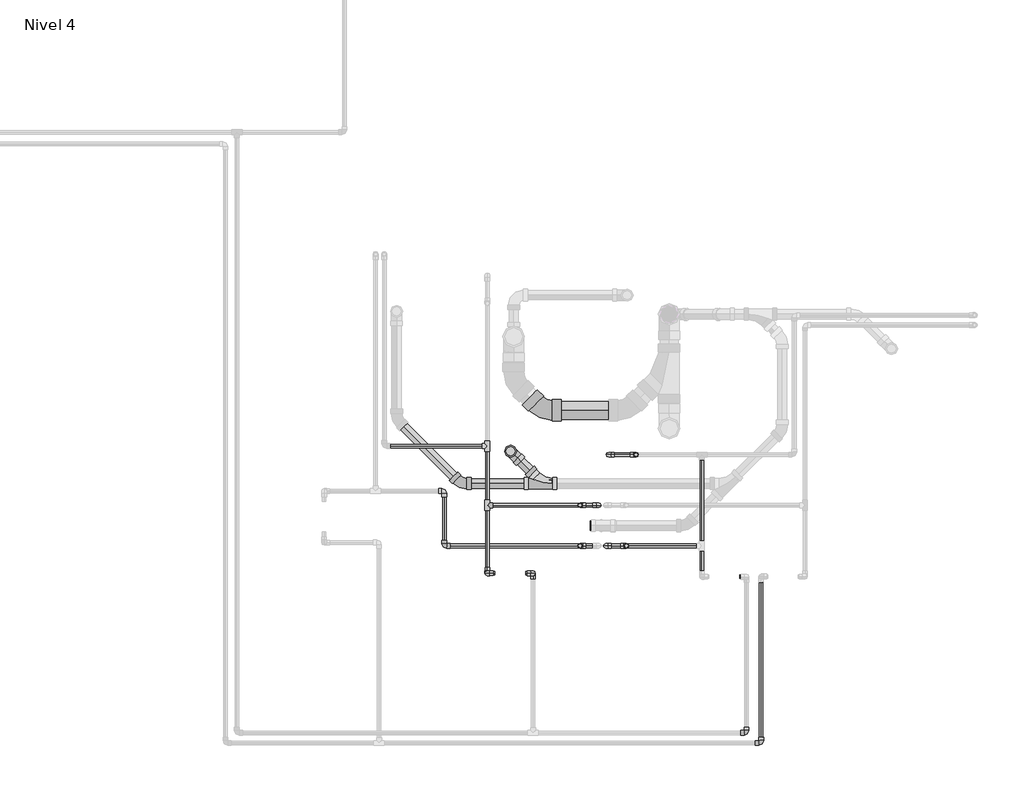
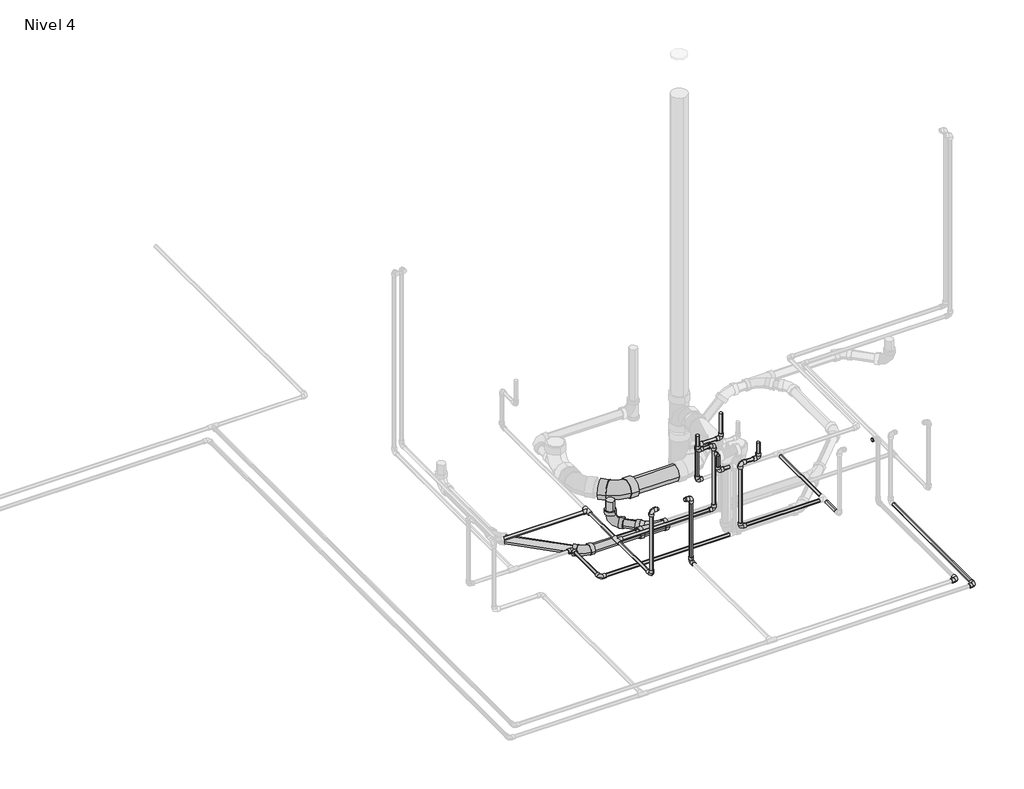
# One storey, part 2 of 9: 32 pipe segments, 24 pipe fittings.
"""IFC4 building model written with IfcOpenShell, lengths in millimetres."""

from ifc_helpers import new_model, si_unit, point, frame, frame_2d, origin, place, context, project, spatial, circle_curve, trimmed, segment, composite_curve, outline, extrude, transform, mapped, element, save
from components import pipe_fitting_ab418b84, pipe_fitting_0163322b, m_codo_pvc_serie_40_9ad74631, m_codo_pvc_serie_40_ba05d404, m_codo_pvc_serie_40_dwv1_5c0ec739, m_codo_pvc_serie_40_dwv1_9a7ca077, m_codo_pvc_serie_40_dwv1_6f1a2495

model = new_model("IFC4")

# Units and contexts
model_context = context("Model", 3, world=origin())
ifc_project = project(units=[si_unit("LENGTHUNIT", "METRE", prefix="MILLI")], contexts=[model_context])

# Site, building, storey
site = spatial("IfcSite", under=ifc_project)
building = spatial("IfcBuilding", under=site)
storey = spatial("IfcBuildingStorey", under=building, Name="Nivel 4", Elevation=8100.0)

# Pipe fittings
placement = place(None, origin())
pipe_fitting_shape = pipe_fitting_ab418b84(model_context)
element("IfcPipeFitting", 1, ObjectType="M_Te - PVC - Serie 40 : Estándar", at=placement, inside=storey, context=model_context, shape_type="MappedRepresentation", body=[
    mapped(pipe_fitting_shape, transform((6373.4849581, 5443.3784167, 8050.0), x_axis=(0.0, 1.0, 0.0), y_axis=(-1.0, 0.0, 0.0), z_axis=(0.0, 0.0, 1.0))),
])
element("IfcPipeFitting", 2, ObjectType="M_Te - PVC - Serie 40 : Estándar", at=placement, inside=storey, context=model_context, shape_type="MappedRepresentation", body=[
    mapped(pipe_fitting_shape, transform((6373.4849581, 5788.5620607, 8050.0), x_axis=(0.0, 1.0, 0.0), y_axis=(1.0, 0.0, 0.0), z_axis=(0.0, 0.0, -1.0))),
])
pipe_fitting_2_shape = pipe_fitting_0163322b(model_context)
element("IfcPipeFitting", 3, ObjectType="M_Sanitario con te de reducción - PVC - Serie 40 - DWV : Estándar", at=placement, inside=storey, context=model_context, shape_type="MappedRepresentation", body=[
    mapped(pipe_fitting_2_shape, transform((6697.357966, 5569.8260974, 7950.0), x_axis=(-1.0, 0.0, 0.0), y_axis=(0.0, -1.0, 0.0), z_axis=(0.0, 0.0, 1.0))),
])
m_codo_pvc_serie_40_shape = m_codo_pvc_serie_40_9ad74631(model_context)
element("IfcPipeFitting", 4, ObjectType="M_Codo - PVC - Serie 40 : Estándar", at=placement, inside=storey, context=model_context, shape_type="MappedRepresentation", body=[
    mapped(m_codo_pvc_serie_40_shape, transform((6913.1208859, 5443.3784167, 8500.0), x_axis=(0.0, 0.0, -1.0), y_axis=(1.0, 0.0, 0.0), z_axis=(0.0, -1.0, 0.0))),
])
element("IfcPipeFitting", 5, ObjectType="M_Codo - PVC - Serie 40 : Estándar", at=placement, inside=storey, context=model_context, shape_type="MappedRepresentation", body=[
    mapped(m_codo_pvc_serie_40_shape, transform((7022.0365713, 5443.3784167, 8500.0), x_axis=(1.0, 0.0, 0.0), y_axis=(0.0, 0.0, -1.0), z_axis=(0.0, 1.0, 0.0))),
])
element("IfcPipeFitting", 6, ObjectType="M_Codo - PVC - Serie 40 : Estándar", at=placement, inside=storey, context=model_context, shape_type="MappedRepresentation", body=[
    mapped(m_codo_pvc_serie_40_shape, transform((6640.0882468, 5047.0181394, 8050.0), x_axis=(0.0, 1.0, 0.0), y_axis=(0.0, 0.0, 1.0), z_axis=(1.0, 0.0, 0.0))),
])
element("IfcPipeFitting", 7, ObjectType="M_Codo - PVC - Serie 40 : Estándar", at=placement, inside=storey, context=model_context, shape_type="MappedRepresentation", body=[
    mapped(m_codo_pvc_serie_40_shape, transform((6640.0882468, 5047.0181394, 8500.0), x_axis=(0.0, 0.0, 1.0), y_axis=(-1.0, 0.0, 0.0), z_axis=(0.0, -1.0, 0.0))),
])
element("IfcPipeFitting", 8, ObjectType="M_Codo - PVC - Serie 40 : Estándar", at=placement, inside=storey, context=model_context, shape_type="MappedRepresentation", body=[
    mapped(m_codo_pvc_serie_40_shape, transform((6373.4849581, 5047.0181394, 8500.0), x_axis=(-1.0, 0.0, 0.0), y_axis=(0.0, 0.0, -1.0), z_axis=(0.0, -1.0, 0.0))),
])
element("IfcPipeFitting", 9, ObjectType="M_Codo - PVC - Serie 40 : Estándar", at=placement, inside=storey, context=model_context, shape_type="MappedRepresentation", body=[
    mapped(m_codo_pvc_serie_40_shape, transform((6373.4849581, 5047.0181394, 8050.0), x_axis=(0.0, 0.0, -1.0), y_axis=(0.0, 1.0, 0.0), z_axis=(1.0, 0.0, 0.0))),
])
element("IfcPipeFitting", 10, ObjectType="M_Codo - PVC - Serie 40 : Estándar", at=placement, inside=storey, context=model_context, shape_type="MappedRepresentation", body=[
    mapped(m_codo_pvc_serie_40_shape, transform((7022.0365713, 5443.3784167, 8050.0), x_axis=(0.0, 0.0, -1.0), y_axis=(-1.0, 0.0, 0.0), z_axis=(0.0, 1.0, 0.0))),
])
element("IfcPipeFitting", 11, ObjectType="M_Codo - PVC - Serie 40 : Estándar", at=placement, inside=storey, context=model_context, shape_type="MappedRepresentation", body=[
    mapped(m_codo_pvc_serie_40_shape, transform((7239.3408631, 5738.1215351, 8300.0), x_axis=(0.0, 0.0, -1.0), y_axis=(-1.0, 0.0, 0.0), z_axis=(0.0, 1.0, 0.0))),
])
element("IfcPipeFitting", 12, ObjectType="M_Codo - PVC - Serie 40 : Estándar", at=placement, inside=storey, context=model_context, shape_type="MappedRepresentation", body=[
    mapped(m_codo_pvc_serie_40_shape, transform((7079.3408631, 5738.1215351, 8300.0), x_axis=(-1.0, 0.0, 0.0), y_axis=(0.0, 0.0, -1.0), z_axis=(0.0, -1.0, 0.0))),
])
element("IfcPipeFitting", 13, ObjectType="M_Codo - PVC - Serie 40 : Estándar", at=placement, inside=storey, context=model_context, shape_type="MappedRepresentation", body=[
    mapped(m_codo_pvc_serie_40_shape, transform((7079.3408631, 5738.1215351, 8050.0), x_axis=(0.0, 0.0, -1.0), y_axis=(1.0, 0.0, 0.0), z_axis=(0.0, -1.0, 0.0))),
])
element("IfcPipeFitting", 14, ObjectType="M_Codo - PVC - Serie 40 : Estándar", at=placement, inside=storey, context=model_context, shape_type="MappedRepresentation", body=[
    mapped(m_codo_pvc_serie_40_shape, transform((7182.9224126, 5206.6215833, 8500.0), x_axis=(0.0, 0.0, -1.0), y_axis=(-1.0, 0.0, 0.0), z_axis=(0.0, 1.0, 0.0))),
])
element("IfcPipeFitting", 15, ObjectType="M_Codo - PVC - Serie 40 : Estándar", at=placement, inside=storey, context=model_context, shape_type="MappedRepresentation", body=[
    mapped(m_codo_pvc_serie_40_shape, transform((7062.9224126, 5206.6215833, 8500.0), x_axis=(-1.0, 0.0, 0.0), y_axis=(0.0, 0.0, -1.0), z_axis=(0.0, -1.0, 0.0))),
])
element("IfcPipeFitting", 16, ObjectType="M_Codo - PVC - Serie 40 : Estándar", at=placement, inside=storey, context=model_context, shape_type="MappedRepresentation", body=[
    mapped(m_codo_pvc_serie_40_shape, transform((7062.9224126, 5206.6215833, 8050.0), x_axis=(0.0, 0.0, -1.0), y_axis=(1.0, 0.0, 0.0), z_axis=(0.0, -1.0, 0.0))),
])
element("IfcPipeFitting", 17, ObjectType="M_Codo - PVC - Serie 40 : Estándar", at=placement, inside=storey, context=model_context, shape_type="MappedRepresentation", body=[
    mapped(m_codo_pvc_serie_40_shape, transform((7882.9224126, 4117.0181394, 8050.0), x_axis=(1.0, 0.0, 0.0), y_axis=(0.0, 1.0, 0.0), z_axis=(0.0, 0.0, 1.0))),
])
element("IfcPipeFitting", 18, ObjectType="M_Codo - PVC - Serie 40 : Estándar", at=placement, inside=storey, context=model_context, shape_type="MappedRepresentation", body=[
    mapped(m_codo_pvc_serie_40_shape, transform((7968.2736664, 4058.5261191, 8020.0), x_axis=(1.0, 0.0, 0.0), y_axis=(0.0, 1.0, 0.0), z_axis=(0.0, 0.0, 1.0))),
])
element("IfcPipeFitting", 19, ObjectType="M_Codo - PVC - Serie 40 : Estándar", at=placement, inside=storey, context=model_context, shape_type="MappedRepresentation", body=[
    mapped(m_codo_pvc_serie_40_shape, transform((6123.2442783, 5526.6215833, 8020.0), x_axis=(0.0, 1.0, 0.0), y_axis=(-1.0, 0.0, 0.0), z_axis=(0.0, 0.0, 1.0))),
])
element("IfcPipeFitting", 20, ObjectType="M_Codo - PVC - Serie 40 : Estándar", at=placement, inside=storey, context=model_context, shape_type="MappedRepresentation", body=[
    mapped(m_codo_pvc_serie_40_shape, transform((6123.2442783, 5206.6215833, 8020.0), x_axis=(0.0, -1.0, 0.0), y_axis=(1.0, 0.0, 0.0), z_axis=(0.0, 0.0, 1.0))),
])
m_codo_pvc_serie_40_2_shape = m_codo_pvc_serie_40_ba05d404(model_context)
element("IfcPipeFitting", 21, ObjectType="M_Codo - PVC - Serie 40 : Estándar", at=placement, inside=storey, context=model_context, shape_type="MappedRepresentation", body=[
    mapped(m_codo_pvc_serie_40_2_shape, transform((6913.1208859, 5206.6215833, 8500.0), x_axis=(0.0, 0.0, -1.0), y_axis=(-1.0, 0.0, 0.0), z_axis=(0.0, 1.0, 0.0))),
])
m_codo_pvc_serie_40_dwv1_shape = m_codo_pvc_serie_40_dwv1_5c0ec739(model_context)
element("IfcPipeFitting", 22, ObjectType="M_Codo - PVC - Serie 40 - DWV1 : Estándar 2", at=placement, inside=storey, context=model_context, shape_type="MappedRepresentation", body=[
    mapped(m_codo_pvc_serie_40_dwv1_shape, transform((6509.082159, 5758.1019044, 7950.0), x_axis=(0.0, 0.0, -1.0), y_axis=(0.7071067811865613, -0.7071067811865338, 0.0), z_axis=(-0.7071067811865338, -0.7071067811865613, 0.0))),
])
m_codo_pvc_serie_40_dwv1_2_shape = m_codo_pvc_serie_40_dwv1_9a7ca077(model_context)
element("IfcPipeFitting", 23, ObjectType="M_Codo - PVC - Serie 40 - DWV1 : Estándar 2", at=placement, inside=storey, context=model_context, shape_type="MappedRepresentation", body=[
    mapped(m_codo_pvc_serie_40_dwv1_2_shape, transform((6696.5258369, 5996.1455314, 7950.0), x_axis=(0.7071067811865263, -0.7071067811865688, 0.0), y_axis=(0.7071067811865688, 0.7071067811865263, 0.0), z_axis=(0.0, 0.0, 1.0))),
])
m_codo_pvc_serie_40_dwv1_3_shape = m_codo_pvc_serie_40_dwv1_6f1a2495(model_context)
element("IfcPipeFitting", 24, ObjectType="M_Codo - PVC - Serie 40 - DWV1 : Estándar 2", at=placement, inside=storey, context=model_context, shape_type="MappedRepresentation", body=[
    mapped(m_codo_pvc_serie_40_dwv1_3_shape, transform((6219.5377594, 5569.8260974, 7950.0), x_axis=(0.7071067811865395, -0.7071067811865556, 0.0), y_axis=(0.7071067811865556, 0.7071067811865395, 0.0), z_axis=(0.0, 0.0, 1.0))),
])

# Pipe segments
element("IfcPipeSegment", 25, ObjectType="Tuberia PVC Agua Fria", at=placement, inside=storey, context=model_context, shape_type="SweptSolid", body=[
    extrude(outline(composite_curve([segment(trimmed(circle_curve(frame_2d((5443.3784167, 8050.0)), 10.31875), [point((5453.6971667, 8050.0))], [point((5443.3784167, 8039.68125))], False, "CARTESIAN"), True, "CONTINUOUS"), segment(trimmed(circle_curve(frame_2d((5443.3784167, 8050.0)), 10.31875), [point((5443.3784167, 8039.68125))], [point((5433.0596667, 8050.0))], False, "CARTESIAN"), True, "CONTINUOUS"), segment(trimmed(circle_curve(frame_2d((5443.3784167, 8050.0)), 10.31875), [point((5433.0596667, 8050.0))], [point((5443.3784167, 8060.31875))], False, "CARTESIAN"), True, "CONTINUOUS"), segment(trimmed(circle_curve(frame_2d((5443.3784167, 8050.0)), 10.31875), [point((5443.3784167, 8060.31875))], [point((5453.6971667, 8050.0))], False, "CARTESIAN"), True, "CONTINUOUS")], self_intersect=False)), frame((6403.9451144, 0.0, 0.0), z_axis=(1.0, 0.0, 0.0), x_axis=(0.0, 1.0, 0.0)), (0.0, 0.0, 1.0), 584.6904569),
])
element("IfcPipeSegment", 26, ObjectType="Tuberia PVC Agua Fria", at=placement, inside=storey, context=model_context, shape_type="SweptSolid", body=[
    extrude(outline(composite_curve([segment(trimmed(circle_curve(frame_2d((5443.3784167, 8500.0)), 10.31875), [point((5433.0596667, 8500.0))], [point((5443.3784167, 8510.31875))], False, "CARTESIAN"), True, "CONTINUOUS"), segment(trimmed(circle_curve(frame_2d((5443.3784167, 8500.0)), 10.31875), [point((5443.3784167, 8510.31875))], [point((5453.6971667, 8500.0))], False, "CARTESIAN"), True, "CONTINUOUS"), segment(trimmed(circle_curve(frame_2d((5443.3784167, 8500.0)), 10.31875), [point((5453.6971667, 8500.0))], [point((5443.3784167, 8489.68125))], False, "CARTESIAN"), True, "CONTINUOUS"), segment(trimmed(circle_curve(frame_2d((5443.3784167, 8500.0)), 10.31875), [point((5443.3784167, 8489.68125))], [point((5433.0596667, 8500.0))], False, "CARTESIAN"), True, "CONTINUOUS")], self_intersect=False)), frame((6946.5218859, 0.0, 0.0), z_axis=(1.0, 0.0, 0.0), x_axis=(0.0, 1.0, 0.0)), (0.0, 0.0, 1.0), 42.1136854),
])
element("IfcPipeSegment", 27, ObjectType="Tuberia PVC Agua Fria", at=placement, inside=storey, context=model_context, shape_type="SweptSolid", body=[
    extrude(outline(composite_curve([segment(trimmed(circle_curve(frame_2d((6913.1208859, 5443.3784167)), 10.31875), [point((6923.4396359, 5443.3784167))], [point((6913.1208859, 5433.0596667))], False, "CARTESIAN"), True, "CONTINUOUS"), segment(trimmed(circle_curve(frame_2d((6913.1208859, 5443.3784167)), 10.31875), [point((6913.1208859, 5433.0596667))], [point((6902.8021359, 5443.3784167))], False, "CARTESIAN"), True, "CONTINUOUS"), segment(trimmed(circle_curve(frame_2d((6913.1208859, 5443.3784167)), 10.31875), [point((6902.8021359, 5443.3784167))], [point((6913.1208859, 5453.6971667))], False, "CARTESIAN"), True, "CONTINUOUS"), segment(trimmed(circle_curve(frame_2d((6913.1208859, 5443.3784167)), 10.31875), [point((6913.1208859, 5453.6971667))], [point((6923.4396359, 5443.3784167))], False, "CARTESIAN"), True, "CONTINUOUS")], self_intersect=False)), frame((0.0, 0.0, 8533.401), z_axis=(0.0, 0.0, 1.0), x_axis=(1.0, 0.0, 0.0)), (0.0, 0.0, 1.0), 74.0983614),
])
element("IfcPipeSegment", 28, ObjectType="Tuberia PVC Agua Fria", at=placement, inside=storey, context=model_context, shape_type="SweptSolid", body=[
    extrude(outline(composite_curve([segment(trimmed(circle_curve(frame_2d((7022.0365713, 5443.3784167)), 10.31875), [point((7032.3553213, 5443.3784167))], [point((7022.0365713, 5433.0596667))], False, "CARTESIAN"), True, "CONTINUOUS"), segment(trimmed(circle_curve(frame_2d((7022.0365713, 5443.3784167)), 10.31875), [point((7022.0365713, 5433.0596667))], [point((7011.7178213, 5443.3784167))], False, "CARTESIAN"), True, "CONTINUOUS"), segment(trimmed(circle_curve(frame_2d((7022.0365713, 5443.3784167)), 10.31875), [point((7011.7178213, 5443.3784167))], [point((7022.0365713, 5453.6971667))], False, "CARTESIAN"), True, "CONTINUOUS"), segment(trimmed(circle_curve(frame_2d((7022.0365713, 5443.3784167)), 10.31875), [point((7022.0365713, 5453.6971667))], [point((7032.3553213, 5443.3784167))], False, "CARTESIAN"), True, "CONTINUOUS")], self_intersect=False)), frame((0.0, 0.0, 8083.401), z_axis=(0.0, 0.0, 1.0), x_axis=(1.0, 0.0, 0.0)), (0.0, 0.0, 1.0), 383.198),
])
element("IfcPipeSegment", 29, ObjectType="Tuberia PVC Agua Fria", at=placement, inside=storey, context=model_context, shape_type="SweptSolid", body=[
    extrude(outline(composite_curve([segment(trimmed(circle_curve(frame_2d((5047.0181394, 8500.0)), 10.31875), [point((5057.3368894, 8500.0))], [point((5047.0181394, 8489.68125))], False, "CARTESIAN"), True, "CONTINUOUS"), segment(trimmed(circle_curve(frame_2d((5047.0181394, 8500.0)), 10.31875), [point((5047.0181394, 8489.68125))], [point((5036.6993894, 8500.0))], False, "CARTESIAN"), True, "CONTINUOUS"), segment(trimmed(circle_curve(frame_2d((5047.0181394, 8500.0)), 10.31875), [point((5036.6993894, 8500.0))], [point((5047.0181394, 8510.31875))], False, "CARTESIAN"), True, "CONTINUOUS"), segment(trimmed(circle_curve(frame_2d((5047.0181394, 8500.0)), 10.31875), [point((5047.0181394, 8510.31875))], [point((5057.3368894, 8500.0))], False, "CARTESIAN"), True, "CONTINUOUS")], self_intersect=False)), frame((6406.8859581, 0.0, 0.0), z_axis=(1.0, 0.0, 0.0), x_axis=(0.0, 1.0, 0.0)), (0.0, 0.0, 1.0), 10.9006444),
])
element("IfcPipeSegment", 30, ObjectType="Tuberia PVC Agua Fria", at=placement, inside=storey, context=model_context, shape_type="SweptSolid", body=[
    extrude(outline(composite_curve([segment(trimmed(circle_curve(frame_2d((6640.0882468, 5047.0181394)), 10.31875), [point((6629.7694968, 5047.0181394))], [point((6640.0882468, 5057.3368894))], False, "CARTESIAN"), True, "CONTINUOUS"), segment(trimmed(circle_curve(frame_2d((6640.0882468, 5047.0181394)), 10.31875), [point((6640.0882468, 5057.3368894))], [point((6650.4069968, 5047.0181394))], False, "CARTESIAN"), True, "CONTINUOUS"), segment(trimmed(circle_curve(frame_2d((6640.0882468, 5047.0181394)), 10.31875), [point((6650.4069968, 5047.0181394))], [point((6640.0882468, 5036.6993894))], False, "CARTESIAN"), True, "CONTINUOUS"), segment(trimmed(circle_curve(frame_2d((6640.0882468, 5047.0181394)), 10.31875), [point((6640.0882468, 5036.6993894))], [point((6629.7694968, 5047.0181394))], False, "CARTESIAN"), True, "CONTINUOUS")], self_intersect=False)), frame((0.0, 0.0, 8083.401), z_axis=(0.0, 0.0, 1.0), x_axis=(1.0, 0.0, 0.0)), (0.0, 0.0, 1.0), 383.198),
])
element("IfcPipeSegment", 31, ObjectType="Tuberia PVC Agua Fria", at=placement, inside=storey, context=model_context, shape_type="SweptSolid", body=[
    extrude(outline(composite_curve([segment(trimmed(circle_curve(frame_2d((6373.4849581, 5047.0181394)), 10.31875), [point((6383.8037081, 5047.0181394))], [point((6373.4849581, 5036.6993894))], False, "CARTESIAN"), True, "CONTINUOUS"), segment(trimmed(circle_curve(frame_2d((6373.4849581, 5047.0181394)), 10.31875), [point((6373.4849581, 5036.6993894))], [point((6363.1662081, 5047.0181394))], False, "CARTESIAN"), True, "CONTINUOUS"), segment(trimmed(circle_curve(frame_2d((6373.4849581, 5047.0181394)), 10.31875), [point((6363.1662081, 5047.0181394))], [point((6373.4849581, 5057.3368894))], False, "CARTESIAN"), True, "CONTINUOUS"), segment(trimmed(circle_curve(frame_2d((6373.4849581, 5047.0181394)), 10.31875), [point((6373.4849581, 5057.3368894))], [point((6383.8037081, 5047.0181394))], False, "CARTESIAN"), True, "CONTINUOUS")], self_intersect=False)), frame((0.0, 0.0, 8083.401), z_axis=(0.0, 0.0, 1.0), x_axis=(1.0, 0.0, 0.0)), (0.0, 0.0, 1.0), 383.198),
])
element("IfcPipeSegment", 32, ObjectType="Tuberia PVC Agua Fria", at=placement, inside=storey, context=model_context, shape_type="SweptSolid", body=[
    extrude(outline(composite_curve([segment(trimmed(circle_curve(frame_2d((8050.0, 6373.4849581)), 10.31875), [point((8050.0, 6383.8037081))], [point((8060.31875, 6373.4849581))], False, "CARTESIAN"), True, "CONTINUOUS"), segment(trimmed(circle_curve(frame_2d((8050.0, 6373.4849581)), 10.31875), [point((8060.31875, 6373.4849581))], [point((8050.0, 6363.1662081))], False, "CARTESIAN"), True, "CONTINUOUS"), segment(trimmed(circle_curve(frame_2d((8050.0, 6373.4849581)), 10.31875), [point((8050.0, 6363.1662081))], [point((8039.68125, 6373.4849581))], False, "CARTESIAN"), True, "CONTINUOUS"), segment(trimmed(circle_curve(frame_2d((8050.0, 6373.4849581)), 10.31875), [point((8039.68125, 6373.4849581))], [point((8050.0, 6383.8037081))], False, "CARTESIAN"), True, "CONTINUOUS")], self_intersect=False)), frame((0.0, 5080.4191394, 0.0), z_axis=(0.0, 1.0, 0.0), x_axis=(0.0, 0.0, 1.0)), (0.0, 0.0, 1.0), 332.4991211),
])
element("IfcPipeSegment", 33, ObjectType="Tuberia PVC Agua Fria", at=placement, inside=storey, context=model_context, shape_type="SweptSolid", body=[
    extrude(outline(composite_curve([segment(trimmed(circle_curve(frame_2d((5738.1215351, 8300.0)), 10.31875), [point((5748.4402851, 8300.0))], [point((5738.1215351, 8289.68125))], False, "CARTESIAN"), True, "CONTINUOUS"), segment(trimmed(circle_curve(frame_2d((5738.1215351, 8300.0)), 10.31875), [point((5738.1215351, 8289.68125))], [point((5727.8027851, 8300.0))], False, "CARTESIAN"), True, "CONTINUOUS"), segment(trimmed(circle_curve(frame_2d((5738.1215351, 8300.0)), 10.31875), [point((5727.8027851, 8300.0))], [point((5738.1215351, 8310.31875))], False, "CARTESIAN"), True, "CONTINUOUS"), segment(trimmed(circle_curve(frame_2d((5738.1215351, 8300.0)), 10.31875), [point((5738.1215351, 8310.31875))], [point((5748.4402851, 8300.0))], False, "CARTESIAN"), True, "CONTINUOUS")], self_intersect=False)), frame((7112.7418631, 0.0, 0.0), z_axis=(1.0, 0.0, 0.0), x_axis=(0.0, 1.0, 0.0)), (0.0, 0.0, 1.0), 93.198),
])
element("IfcPipeSegment", 34, ObjectType="Tuberia PVC Agua Fria", at=placement, inside=storey, context=model_context, shape_type="SweptSolid", body=[
    extrude(outline(composite_curve([segment(trimmed(circle_curve(frame_2d((7239.3408631, 5738.1215351)), 10.31875), [point((7249.6596131, 5738.1215351))], [point((7239.3408631, 5727.8027851))], False, "CARTESIAN"), True, "CONTINUOUS"), segment(trimmed(circle_curve(frame_2d((7239.3408631, 5738.1215351)), 10.31875), [point((7239.3408631, 5727.8027851))], [point((7229.0221131, 5738.1215351))], False, "CARTESIAN"), True, "CONTINUOUS"), segment(trimmed(circle_curve(frame_2d((7239.3408631, 5738.1215351)), 10.31875), [point((7229.0221131, 5738.1215351))], [point((7239.3408631, 5748.4402851))], False, "CARTESIAN"), True, "CONTINUOUS"), segment(trimmed(circle_curve(frame_2d((7239.3408631, 5738.1215351)), 10.31875), [point((7239.3408631, 5748.4402851))], [point((7249.6596131, 5738.1215351))], False, "CARTESIAN"), True, "CONTINUOUS")], self_intersect=False)), frame((0.0, 0.0, 8333.401), z_axis=(0.0, 0.0, 1.0), x_axis=(1.0, 0.0, 0.0)), (0.0, 0.0, 1.0), 139.7562509),
])
element("IfcPipeSegment", 35, ObjectType="Tuberia PVC Agua Fria", at=placement, inside=storey, context=model_context, shape_type="SweptSolid", body=[
    extrude(outline(composite_curve([segment(trimmed(circle_curve(frame_2d((7079.3408631, 5738.1215351)), 10.31875), [point((7089.6596131, 5738.1215351))], [point((7079.3408631, 5727.8027851))], False, "CARTESIAN"), True, "CONTINUOUS"), segment(trimmed(circle_curve(frame_2d((7079.3408631, 5738.1215351)), 10.31875), [point((7079.3408631, 5727.8027851))], [point((7069.0221131, 5738.1215351))], False, "CARTESIAN"), True, "CONTINUOUS"), segment(trimmed(circle_curve(frame_2d((7079.3408631, 5738.1215351)), 10.31875), [point((7069.0221131, 5738.1215351))], [point((7079.3408631, 5748.4402851))], False, "CARTESIAN"), True, "CONTINUOUS"), segment(trimmed(circle_curve(frame_2d((7079.3408631, 5738.1215351)), 10.31875), [point((7079.3408631, 5748.4402851))], [point((7089.6596131, 5738.1215351))], False, "CARTESIAN"), True, "CONTINUOUS")], self_intersect=False)), frame((0.0, 0.0, 8083.401), z_axis=(0.0, 0.0, 1.0), x_axis=(1.0, 0.0, 0.0)), (0.0, 0.0, 1.0), 183.198),
])
element("IfcPipeSegment", 36, ObjectType="Tuberia PVC Agua Fria", at=placement, inside=storey, context=model_context, shape_type="SweptSolid", body=[
    extrude(outline(composite_curve([segment(trimmed(circle_curve(frame_2d((8050.0, 7622.9224126)), 10.31875), [point((8050.0, 7633.2411626))], [point((8060.31875, 7622.9224126))], False, "CARTESIAN"), True, "CONTINUOUS"), segment(trimmed(circle_curve(frame_2d((8050.0, 7622.9224126)), 10.31875), [point((8060.31875, 7622.9224126))], [point((8050.0, 7612.6036626))], False, "CARTESIAN"), True, "CONTINUOUS"), segment(trimmed(circle_curve(frame_2d((8050.0, 7622.9224126)), 10.31875), [point((8050.0, 7612.6036626))], [point((8039.68125, 7622.9224126))], False, "CARTESIAN"), True, "CONTINUOUS"), segment(trimmed(circle_curve(frame_2d((8050.0, 7622.9224126)), 10.31875), [point((8039.68125, 7622.9224126))], [point((8050.0, 7633.2411626))], False, "CARTESIAN"), True, "CONTINUOUS")], self_intersect=False)), frame((0.0, 5237.0817396, 0.0), z_axis=(0.0, 1.0, 0.0), x_axis=(0.0, 0.0, 1.0)), (0.0, 0.0, 1.0), 470.5796393),
])
element("IfcPipeSegment", 37, ObjectType="Tuberia PVC Agua Fria", at=placement, inside=storey, context=model_context, shape_type="SweptSolid", body=[
    extrude(outline(composite_curve([segment(trimmed(circle_curve(frame_2d((5206.6215833, 8500.0)), 10.31875), [point((5216.9403333, 8500.0))], [point((5206.6215833, 8489.68125))], False, "CARTESIAN"), True, "CONTINUOUS"), segment(trimmed(circle_curve(frame_2d((5206.6215833, 8500.0)), 10.31875), [point((5206.6215833, 8489.68125))], [point((5196.3028333, 8500.0))], False, "CARTESIAN"), True, "CONTINUOUS"), segment(trimmed(circle_curve(frame_2d((5206.6215833, 8500.0)), 10.31875), [point((5196.3028333, 8500.0))], [point((5206.6215833, 8510.31875))], False, "CARTESIAN"), True, "CONTINUOUS"), segment(trimmed(circle_curve(frame_2d((5206.6215833, 8500.0)), 10.31875), [point((5206.6215833, 8510.31875))], [point((5216.9403333, 8500.0))], False, "CARTESIAN"), True, "CONTINUOUS")], self_intersect=False)), frame((7096.3234126, 0.0, 0.0), z_axis=(1.0, 0.0, 0.0), x_axis=(0.0, 1.0, 0.0)), (0.0, 0.0, 1.0), 53.198),
])
element("IfcPipeSegment", 38, ObjectType="Tuberia PVC Agua Fria", at=placement, inside=storey, context=model_context, shape_type="SweptSolid", body=[
    extrude(outline(composite_curve([segment(trimmed(circle_curve(frame_2d((7182.9224126, 5206.6215833)), 10.31875), [point((7193.2411626, 5206.6215833))], [point((7182.9224126, 5196.3028333))], False, "CARTESIAN"), True, "CONTINUOUS"), segment(trimmed(circle_curve(frame_2d((7182.9224126, 5206.6215833)), 10.31875), [point((7182.9224126, 5196.3028333))], [point((7172.6036626, 5206.6215833))], False, "CARTESIAN"), True, "CONTINUOUS"), segment(trimmed(circle_curve(frame_2d((7182.9224126, 5206.6215833)), 10.31875), [point((7172.6036626, 5206.6215833))], [point((7182.9224126, 5216.9403333))], False, "CARTESIAN"), True, "CONTINUOUS"), segment(trimmed(circle_curve(frame_2d((7182.9224126, 5206.6215833)), 10.31875), [point((7182.9224126, 5216.9403333))], [point((7193.2411626, 5206.6215833))], False, "CARTESIAN"), True, "CONTINUOUS")], self_intersect=False)), frame((0.0, 0.0, 8533.401), z_axis=(0.0, 0.0, 1.0), x_axis=(1.0, 0.0, 0.0)), (0.0, 0.0, 1.0), 74.0983614),
])
element("IfcPipeSegment", 39, ObjectType="Tuberia PVC Agua Fria", at=placement, inside=storey, context=model_context, shape_type="SweptSolid", body=[
    extrude(outline(composite_curve([segment(trimmed(circle_curve(frame_2d((5206.6215833, 8050.0)), 10.31875), [point((5196.3028333, 8050.0))], [point((5206.6215833, 8060.31875))], False, "CARTESIAN"), True, "CONTINUOUS"), segment(trimmed(circle_curve(frame_2d((5206.6215833, 8050.0)), 10.31875), [point((5206.6215833, 8060.31875))], [point((5216.9403333, 8050.0))], False, "CARTESIAN"), True, "CONTINUOUS"), segment(trimmed(circle_curve(frame_2d((5206.6215833, 8050.0)), 10.31875), [point((5216.9403333, 8050.0))], [point((5206.6215833, 8039.68125))], False, "CARTESIAN"), True, "CONTINUOUS"), segment(trimmed(circle_curve(frame_2d((5206.6215833, 8050.0)), 10.31875), [point((5206.6215833, 8039.68125))], [point((5196.3028333, 8050.0))], False, "CARTESIAN"), True, "CONTINUOUS")], self_intersect=False)), frame((7096.3234126, 0.0, 0.0), z_axis=(1.0, 0.0, 0.0), x_axis=(0.0, 1.0, 0.0)), (0.0, 0.0, 1.0), 496.1388438),
])
element("IfcPipeSegment", 40, ObjectType="Tuberia PVC Agua Fria", at=placement, inside=storey, context=model_context, shape_type="SweptSolid", body=[
    extrude(outline(composite_curve([segment(trimmed(circle_curve(frame_2d((7062.9224126, 5206.6215833)), 10.31875), [point((7073.2411626, 5206.6215833))], [point((7062.9224126, 5196.3028333))], False, "CARTESIAN"), True, "CONTINUOUS"), segment(trimmed(circle_curve(frame_2d((7062.9224126, 5206.6215833)), 10.31875), [point((7062.9224126, 5196.3028333))], [point((7052.6036626, 5206.6215833))], False, "CARTESIAN"), True, "CONTINUOUS"), segment(trimmed(circle_curve(frame_2d((7062.9224126, 5206.6215833)), 10.31875), [point((7052.6036626, 5206.6215833))], [point((7062.9224126, 5216.9403333))], False, "CARTESIAN"), True, "CONTINUOUS"), segment(trimmed(circle_curve(frame_2d((7062.9224126, 5206.6215833)), 10.31875), [point((7062.9224126, 5216.9403333))], [point((7073.2411626, 5206.6215833))], False, "CARTESIAN"), True, "CONTINUOUS")], self_intersect=False)), frame((0.0, 0.0, 8083.401), z_axis=(0.0, 0.0, 1.0), x_axis=(1.0, 0.0, 0.0)), (0.0, 0.0, 1.0), 383.198),
])
element("IfcPipeSegment", 41, ObjectType="Tuberia PVC Agua Fria", at=placement, inside=storey, context=model_context, shape_type="SweptSolid", body=[
    extrude(outline(composite_curve([segment(trimmed(circle_curve(frame_2d((8050.0, 7622.9224126)), 10.31875), [point((8050.0, 7612.6036626))], [point((8039.68125, 7622.9224126))], False, "CARTESIAN"), True, "CONTINUOUS"), segment(trimmed(circle_curve(frame_2d((8050.0, 7622.9224126)), 10.31875), [point((8039.68125, 7622.9224126))], [point((8050.0, 7633.2411626))], False, "CARTESIAN"), True, "CONTINUOUS"), segment(trimmed(circle_curve(frame_2d((8050.0, 7622.9224126)), 10.31875), [point((8050.0, 7633.2411626))], [point((8060.31875, 7622.9224126))], False, "CARTESIAN"), True, "CONTINUOUS"), segment(trimmed(circle_curve(frame_2d((8050.0, 7622.9224126)), 10.31875), [point((8060.31875, 7622.9224126))], [point((8050.0, 7612.6036626))], False, "CARTESIAN"), True, "CONTINUOUS")], self_intersect=False)), frame((0.0, 5060.0225833, 0.0), z_axis=(0.0, 1.0, 0.0), x_axis=(0.0, 0.0, 1.0)), (0.0, 0.0, 1.0), 116.1388438),
])
element("IfcPipeSegment", 42, ObjectType="Tuberia PVC Agua Fria", at=placement, inside=storey, context=model_context, shape_type="SweptSolid", body=[
    extrude(outline(composite_curve([segment(trimmed(circle_curve(frame_2d((5026.6215833, 8500.0)), 10.31875), [point((5016.3028333, 8500.0))], [point((5026.6215833, 8510.31875))], False, "CARTESIAN"), True, "CONTINUOUS"), segment(trimmed(circle_curve(frame_2d((5026.6215833, 8500.0)), 10.31875), [point((5026.6215833, 8510.31875))], [point((5036.9403333, 8500.0))], False, "CARTESIAN"), True, "CONTINUOUS"), segment(trimmed(circle_curve(frame_2d((5026.6215833, 8500.0)), 10.31875), [point((5036.9403333, 8500.0))], [point((5026.6215833, 8489.68125))], False, "CARTESIAN"), True, "CONTINUOUS"), segment(trimmed(circle_curve(frame_2d((5026.6215833, 8500.0)), 10.31875), [point((5026.6215833, 8489.68125))], [point((5016.3028333, 8500.0))], False, "CARTESIAN"), True, "CONTINUOUS")], self_intersect=False)), frame((7841.9224126, 0.0, 0.0), z_axis=(1.0, 0.0, 0.0), x_axis=(0.0, 1.0, 0.0)), (0.0, 0.0, 1.0), 7.599),
])
element("IfcPipeSegment", 43, ObjectType="Tuberia PVC Agua Fria", at=placement, inside=storey, context=model_context, shape_type="SweptSolid", body=[
    extrude(outline(composite_curve([segment(trimmed(circle_curve(frame_2d((5788.5620607, 8050.0)), 10.31875), [point((5798.8808107, 8050.0))], [point((5788.5620607, 8039.68125))], False, "CARTESIAN"), True, "CONTINUOUS"), segment(trimmed(circle_curve(frame_2d((5788.5620607, 8050.0)), 10.31875), [point((5788.5620607, 8039.68125))], [point((5778.2433107, 8050.0))], False, "CARTESIAN"), True, "CONTINUOUS"), segment(trimmed(circle_curve(frame_2d((5788.5620607, 8050.0)), 10.31875), [point((5778.2433107, 8050.0))], [point((5788.5620607, 8060.31875))], False, "CARTESIAN"), True, "CONTINUOUS"), segment(trimmed(circle_curve(frame_2d((5788.5620607, 8050.0)), 10.31875), [point((5788.5620607, 8060.31875))], [point((5798.8808107, 8050.0))], False, "CARTESIAN"), True, "CONTINUOUS")], self_intersect=False)), frame((5806.8859581, 0.0, 0.0), z_axis=(1.0, 0.0, 0.0), x_axis=(0.0, 1.0, 0.0)), (0.0, 0.0, 1.0), 536.1388437),
])
element("IfcPipeSegment", 44, ObjectType="Tuberia PVC Agua Fria", at=placement, inside=storey, context=model_context, shape_type="SweptSolid", body=[
    extrude(outline(composite_curve([segment(trimmed(circle_curve(frame_2d((8050.0, 6373.4849581)), 10.31875), [point((8050.0, 6383.8037081))], [point((8060.31875, 6373.4849581))], False, "CARTESIAN"), True, "CONTINUOUS"), segment(trimmed(circle_curve(frame_2d((8050.0, 6373.4849581)), 10.31875), [point((8060.31875, 6373.4849581))], [point((8050.0, 6363.1662081))], False, "CARTESIAN"), True, "CONTINUOUS"), segment(trimmed(circle_curve(frame_2d((8050.0, 6373.4849581)), 10.31875), [point((8050.0, 6363.1662081))], [point((8039.68125, 6373.4849581))], False, "CARTESIAN"), True, "CONTINUOUS"), segment(trimmed(circle_curve(frame_2d((8050.0, 6373.4849581)), 10.31875), [point((8039.68125, 6373.4849581))], [point((8050.0, 6383.8037081))], False, "CARTESIAN"), True, "CONTINUOUS")], self_intersect=False)), frame((0.0, 5473.8385729, 0.0), z_axis=(0.0, 1.0, 0.0), x_axis=(0.0, 0.0, 1.0)), (0.0, 0.0, 1.0), 284.2633315),
])
element("IfcPipeSegment", 45, ObjectType="Tuberia PVC Agua Fria", at=placement, inside=storey, context=model_context, shape_type="SweptSolid", body=[
    extrude(outline(composite_curve([segment(trimmed(circle_curve(frame_2d((5047.0181394, 8500.0)), 10.31875), [point((5057.3368894, 8500.0))], [point((5047.0181394, 8489.68125))], False, "CARTESIAN"), True, "CONTINUOUS"), segment(trimmed(circle_curve(frame_2d((5047.0181394, 8500.0)), 10.31875), [point((5047.0181394, 8489.68125))], [point((5036.6993894, 8500.0))], False, "CARTESIAN"), True, "CONTINUOUS"), segment(trimmed(circle_curve(frame_2d((5047.0181394, 8500.0)), 10.31875), [point((5036.6993894, 8500.0))], [point((5047.0181394, 8510.31875))], False, "CARTESIAN"), True, "CONTINUOUS"), segment(trimmed(circle_curve(frame_2d((5047.0181394, 8500.0)), 10.31875), [point((5047.0181394, 8510.31875))], [point((5057.3368894, 8500.0))], False, "CARTESIAN"), True, "CONTINUOUS")], self_intersect=False)), frame((6595.7866025, 0.0, 0.0), z_axis=(1.0, 0.0, 0.0), x_axis=(0.0, 1.0, 0.0)), (0.0, 0.0, 1.0), 10.9006444),
])
element("IfcPipeSegment", 46, ObjectType="Tuberia PVC Agua Caliente", at=placement, inside=storey, context=model_context, shape_type="SweptSolid", body=[
    extrude(outline(composite_curve([segment(trimmed(circle_curve(frame_2d((8020.0, 7968.2736664)), 10.31875), [point((8020.0, 7978.5924164))], [point((8030.31875, 7968.2736664))], False, "CARTESIAN"), True, "CONTINUOUS"), segment(trimmed(circle_curve(frame_2d((8020.0, 7968.2736664)), 10.31875), [point((8030.31875, 7968.2736664))], [point((8020.0, 7957.9549164))], False, "CARTESIAN"), True, "CONTINUOUS"), segment(trimmed(circle_curve(frame_2d((8020.0, 7968.2736664)), 10.31875), [point((8020.0, 7957.9549164))], [point((8009.68125, 7968.2736664))], False, "CARTESIAN"), True, "CONTINUOUS"), segment(trimmed(circle_curve(frame_2d((8020.0, 7968.2736664)), 10.31875), [point((8009.68125, 7968.2736664))], [point((8020.0, 7978.5924164))], False, "CARTESIAN"), True, "CONTINUOUS")], self_intersect=False)), frame((0.0, 4091.9271191, 0.0), z_axis=(0.0, 1.0, 0.0), x_axis=(0.0, 0.0, 1.0)), (0.0, 0.0, 1.0), 903.198),
])
element("IfcPipeSegment", 47, ObjectType="Tuberia PVC Agua Caliente", at=placement, inside=storey, context=model_context, shape_type="SweptSolid", body=[
    extrude(outline(composite_curve([segment(trimmed(circle_curve(frame_2d((5206.6215833, 8020.0)), 10.31875), [point((5216.9403333, 8020.0))], [point((5206.6215833, 8009.68125))], False, "CARTESIAN"), True, "CONTINUOUS"), segment(trimmed(circle_curve(frame_2d((5206.6215833, 8020.0)), 10.31875), [point((5206.6215833, 8009.68125))], [point((5196.3028333, 8020.0))], False, "CARTESIAN"), True, "CONTINUOUS"), segment(trimmed(circle_curve(frame_2d((5206.6215833, 8020.0)), 10.31875), [point((5196.3028333, 8020.0))], [point((5206.6215833, 8030.31875))], False, "CARTESIAN"), True, "CONTINUOUS"), segment(trimmed(circle_curve(frame_2d((5206.6215833, 8020.0)), 10.31875), [point((5206.6215833, 8030.31875))], [point((5216.9403333, 8020.0))], False, "CARTESIAN"), True, "CONTINUOUS")], self_intersect=False)), frame((6156.6452783, 0.0, 0.0), z_axis=(1.0, 0.0, 0.0), x_axis=(0.0, 1.0, 0.0)), (0.0, 0.0, 1.0), 831.990293),
])
element("IfcPipeSegment", 48, ObjectType="Tuberia PVC Agua Caliente", at=placement, inside=storey, context=model_context, shape_type="SweptSolid", body=[
    extrude(outline(composite_curve([segment(trimmed(circle_curve(frame_2d((5206.6215833, 8500.0)), 10.31875), [point((5196.3028333, 8500.0))], [point((5206.6215833, 8510.31875))], False, "CARTESIAN"), True, "CONTINUOUS"), segment(trimmed(circle_curve(frame_2d((5206.6215833, 8500.0)), 10.31875), [point((5206.6215833, 8510.31875))], [point((5216.9403333, 8500.0))], False, "CARTESIAN"), True, "CONTINUOUS"), segment(trimmed(circle_curve(frame_2d((5206.6215833, 8500.0)), 10.31875), [point((5216.9403333, 8500.0))], [point((5206.6215833, 8489.68125))], False, "CARTESIAN"), True, "CONTINUOUS"), segment(trimmed(circle_curve(frame_2d((5206.6215833, 8500.0)), 10.31875), [point((5206.6215833, 8489.68125))], [point((5196.3028333, 8500.0))], False, "CARTESIAN"), True, "CONTINUOUS")], self_intersect=False)), frame((6946.5218859, 0.0, 0.0), z_axis=(1.0, 0.0, 0.0), x_axis=(0.0, 1.0, 0.0)), (0.0, 0.0, 1.0), 42.1136854),
])
element("IfcPipeSegment", 49, ObjectType="Tuberia PVC Agua Caliente", at=placement, inside=storey, context=model_context, shape_type="SweptSolid", body=[
    extrude(outline(composite_curve([segment(trimmed(circle_curve(frame_2d((6913.1208859, 5206.6215833)), 10.31875), [point((6923.4396359, 5206.6215833))], [point((6913.1208859, 5196.3028333))], False, "CARTESIAN"), True, "CONTINUOUS"), segment(trimmed(circle_curve(frame_2d((6913.1208859, 5206.6215833)), 10.31875), [point((6913.1208859, 5196.3028333))], [point((6902.8021359, 5206.6215833))], False, "CARTESIAN"), True, "CONTINUOUS"), segment(trimmed(circle_curve(frame_2d((6913.1208859, 5206.6215833)), 10.31875), [point((6902.8021359, 5206.6215833))], [point((6913.1208859, 5216.9403333))], False, "CARTESIAN"), True, "CONTINUOUS"), segment(trimmed(circle_curve(frame_2d((6913.1208859, 5206.6215833)), 10.31875), [point((6913.1208859, 5216.9403333))], [point((6923.4396359, 5206.6215833))], False, "CARTESIAN"), True, "CONTINUOUS")], self_intersect=False)), frame((0.0, 0.0, 8533.401), z_axis=(0.0, 0.0, 1.0), x_axis=(1.0, 0.0, 0.0)), (0.0, 0.0, 1.0), 74.0983614),
])
element("IfcPipeSegment", 50, ObjectType="Tuberia PVC Agua Caliente", at=placement, inside=storey, context=model_context, shape_type="SweptSolid", body=[
    extrude(outline(composite_curve([segment(trimmed(circle_curve(frame_2d((8020.0, 6123.2442783)), 10.31875), [point((8020.0, 6112.9255283))], [point((8009.68125, 6123.2442783))], False, "CARTESIAN"), True, "CONTINUOUS"), segment(trimmed(circle_curve(frame_2d((8020.0, 6123.2442783)), 10.31875), [point((8009.68125, 6123.2442783))], [point((8020.0, 6133.5630283))], False, "CARTESIAN"), True, "CONTINUOUS"), segment(trimmed(circle_curve(frame_2d((8020.0, 6123.2442783)), 10.31875), [point((8020.0, 6133.5630283))], [point((8030.31875, 6123.2442783))], False, "CARTESIAN"), True, "CONTINUOUS"), segment(trimmed(circle_curve(frame_2d((8020.0, 6123.2442783)), 10.31875), [point((8030.31875, 6123.2442783))], [point((8020.0, 6112.9255283))], False, "CARTESIAN"), True, "CONTINUOUS")], self_intersect=False)), frame((0.0, 5240.0225833, 0.0), z_axis=(0.0, 1.0, 0.0), x_axis=(0.0, 0.0, 1.0)), (0.0, 0.0, 1.0), 253.198),
])
element("IfcPipeSegment", 51, ObjectType="Tuberia PVC Sanitario", at=placement, inside=storey, context=model_context, shape_type="SweptSolid", body=[
    extrude(outline(composite_curve([segment(trimmed(circle_curve(frame_2d((5325.0, 8510.6716548)), 26.9875), [point((5298.0125, 8510.6716548))], [point((5325.0, 8537.6591548))], False, "CARTESIAN"), True, "CONTINUOUS"), segment(trimmed(circle_curve(frame_2d((5325.0, 8510.6716548)), 26.9875), [point((5325.0, 8537.6591548))], [point((5351.9875, 8510.6716548))], False, "CARTESIAN"), True, "CONTINUOUS"), segment(trimmed(circle_curve(frame_2d((5325.0, 8510.6716548)), 26.9875), [point((5351.9875, 8510.6716548))], [point((5325.0, 8483.6841548))], False, "CARTESIAN"), True, "CONTINUOUS"), segment(trimmed(circle_curve(frame_2d((5325.0, 8510.6716548)), 26.9875), [point((5325.0, 8483.6841548))], [point((5298.0125, 8510.6716548))], False, "CARTESIAN"), True, "CONTINUOUS")], self_intersect=False)), frame((6973.0216492, 0.0, 0.0), z_axis=(1.0, 0.0, 0.0), x_axis=(0.0, 1.0, 0.0)), (0.0, 0.0, 1.0), 5.3070105),
])
element("IfcPipeSegment", 52, ObjectType="Tuberia PVC Sanitario", at=placement, inside=storey, context=model_context, shape_type="SweptSolid", body=[
    extrude(outline(composite_curve([segment(trimmed(circle_curve(frame_2d((0.0, -26.9875)), 26.9875), [point((-26.9875, -26.9875))], [point((0.0, 0.0))], False, "CARTESIAN"), True, "CONTINUOUS"), segment(trimmed(circle_curve(frame_2d((0.0, -26.9875)), 26.9875), [point((0.0, 0.0))], [point((26.9875, -26.9875))], False, "CARTESIAN"), True, "CONTINUOUS"), segment(trimmed(circle_curve(frame_2d((0.0, -26.9875)), 26.9875), [point((26.9875, -26.9875))], [point((0.0, -53.975))], False, "CARTESIAN"), True, "CONTINUOUS"), segment(trimmed(circle_curve(frame_2d((0.0, -26.9875)), 26.9875), [point((0.0, -53.975))], [point((-26.9875, -26.9875))], False, "CARTESIAN"), True, "CONTINUOUS")], self_intersect=False)), frame((6620.3981562, 5646.7859072, 7923.0125), z_axis=(-0.7071067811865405, 0.7071067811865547, 0.0), x_axis=(0.7071067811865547, 0.7071067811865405, 0.0)), (0.0, 0.0, 1.0), 74.8825305),
])
element("IfcPipeSegment", 53, ObjectType="Tuberia PVC Sanitario", at=placement, inside=storey, context=model_context, shape_type="SweptSolid", body=[
    extrude(outline(composite_curve([segment(trimmed(circle_curve(frame_2d((6509.082159, 5758.1019044)), 26.9875), [point((6482.094659, 5758.1019044))], [point((6509.082159, 5785.0894044))], False, "CARTESIAN"), True, "CONTINUOUS"), segment(trimmed(circle_curve(frame_2d((6509.082159, 5758.1019044)), 26.9875), [point((6509.082159, 5785.0894044))], [point((6536.069659, 5758.1019044))], False, "CARTESIAN"), True, "CONTINUOUS"), segment(trimmed(circle_curve(frame_2d((6509.082159, 5758.1019044)), 26.9875), [point((6536.069659, 5758.1019044))], [point((6509.082159, 5731.1144044))], False, "CARTESIAN"), True, "CONTINUOUS"), segment(trimmed(circle_curve(frame_2d((6509.082159, 5758.1019044)), 26.9875), [point((6509.082159, 5731.1144044))], [point((6482.094659, 5758.1019044))], False, "CARTESIAN"), True, "CONTINUOUS")], self_intersect=False)), frame((0.0, 0.0, 8032.5420625), z_axis=(0.0, 0.0, 1.0), x_axis=(1.0, 0.0, 0.0)), (0.0, 0.0, 1.0), 67.4579375),
])
element("IfcPipeSegment", 54, ObjectType="Tuberia PVC Sanitario", at=placement, inside=storey, context=model_context, shape_type="SweptSolid", body=[
    extrude(outline(composite_curve([segment(trimmed(circle_curve(frame_2d((0.0, 26.9875)), 26.9875), [point((26.9874999, 26.9875))], [point((0.0, 0.0))], False, "CARTESIAN"), True, "CONTINUOUS"), segment(trimmed(circle_curve(frame_2d((0.0, 26.9875)), 26.9875), [point((0.0, 0.0))], [point((-26.9875001, 26.9875))], False, "CARTESIAN"), True, "CONTINUOUS"), segment(trimmed(circle_curve(frame_2d((0.0, 26.9875)), 26.9875), [point((-26.9875001, 26.9875))], [point((0.0, 53.975))], False, "CARTESIAN"), True, "CONTINUOUS"), segment(trimmed(circle_curve(frame_2d((0.0, 26.9875)), 26.9875), [point((0.0, 53.975))], [point((26.9874999, 26.9875))], False, "CARTESIAN"), True, "CONTINUOUS")], self_intersect=False)), frame((6176.8085783, 5612.5552786, 7976.9875), z_axis=(-0.7071067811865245, 0.7071067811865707, 0.0), x_axis=(0.7071067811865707, 0.7071067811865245, 0.0)), (0.0, 0.0, 1.0), 408.3454311),
])
element("IfcPipeSegment", 55, ObjectType="Tuberia PVC Sanitario", at=placement, inside=storey, context=model_context, shape_type="SweptSolid", body=[
    extrude(outline(composite_curve([segment(trimmed(circle_curve(frame_2d((5569.8260974, 7950.0)), 26.9875), [point((5542.8385974, 7950.0))], [point((5569.8260974, 7976.9875))], False, "CARTESIAN"), True, "CONTINUOUS"), segment(trimmed(circle_curve(frame_2d((5569.8260974, 7950.0)), 26.9875), [point((5569.8260974, 7976.9875))], [point((5596.8135974, 7950.0))], False, "CARTESIAN"), True, "CONTINUOUS"), segment(trimmed(circle_curve(frame_2d((5569.8260974, 7950.0)), 26.9875), [point((5596.8135974, 7950.0))], [point((5569.8260974, 7923.0125))], False, "CARTESIAN"), True, "CONTINUOUS"), segment(trimmed(circle_curve(frame_2d((5569.8260974, 7950.0)), 26.9875), [point((5569.8260974, 7923.0125))], [point((5542.8385974, 7950.0))], False, "CARTESIAN"), True, "CONTINUOUS")], self_intersect=False)), frame((6279.9659469, 0.0, 0.0), z_axis=(1.0, 0.0, 0.0), x_axis=(0.0, 1.0, 0.0)), (0.0, 0.0, 1.0), 308.5544124),
])
element("IfcPipeSegment", 56, ObjectType="Tuberia PVC Sanitario", at=placement, inside=storey, context=model_context, shape_type="SweptSolid", body=[
    extrude(outline(composite_curve([segment(trimmed(circle_curve(frame_2d((5996.1455314, 7950.0)), 52.3875), [point((5943.7580314, 7950.0))], [point((5996.1455314, 8002.3875))], False, "CARTESIAN"), True, "CONTINUOUS"), segment(trimmed(circle_curve(frame_2d((5996.1455314, 7950.0)), 52.3875), [point((5996.1455314, 8002.3875))], [point((6048.5330314, 7950.0))], False, "CARTESIAN"), True, "CONTINUOUS"), segment(trimmed(circle_curve(frame_2d((5996.1455314, 7950.0)), 52.3875), [point((6048.5330314, 7950.0))], [point((5996.1455314, 7897.6125))], False, "CARTESIAN"), True, "CONTINUOUS"), segment(trimmed(circle_curve(frame_2d((5996.1455314, 7950.0)), 52.3875), [point((5996.1455314, 7897.6125))], [point((5943.7580314, 7950.0))], False, "CARTESIAN"), True, "CONTINUOUS")], self_intersect=False)), frame((6803.6900244, 0.0, 0.0), z_axis=(1.0, 0.0, 0.0), x_axis=(0.0, 1.0, 0.0)), (0.0, 0.0, 1.0), 277.2401675),
])

save(model, "model.ifc")
